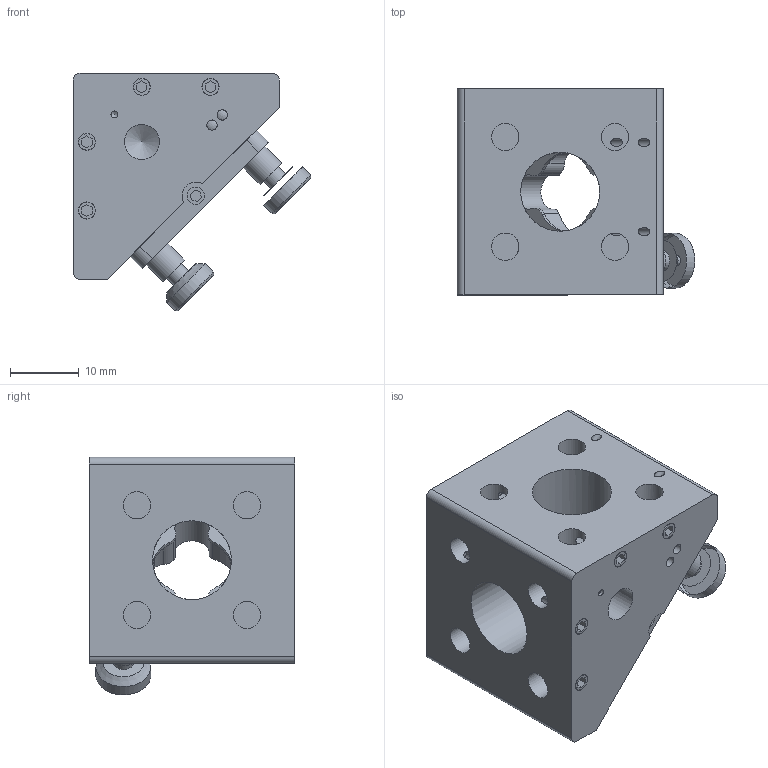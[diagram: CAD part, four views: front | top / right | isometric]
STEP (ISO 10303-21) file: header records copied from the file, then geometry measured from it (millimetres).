
FILE_DESCRIPTION(/* description */ (''),/* implementation_level */ '2;1');
FILE_NAME(/* name */ 'Y:\2_OpticalHard\08_Cage Systems\C16ｼﾘｰｽﾞ\C16-AMH-12.7UU\C16-AMH-12.7UU.stp',/* time_stamp */ '2019-02-19T13:11:27+09:00',/* author */ ('e.nonaka'),/* organization */ (''),/* preprocessor_version */ 'ST-DEVELOPER v17',/* originating_system */ 'Autodesk Inventor 2018',/* authorisation */ '');
FILE_SCHEMA (('AUTOMOTIVE_DESIGN { 1 0 10303 214 3 1 1 }'));
Length unit declared in the file: millimetre
Products named in the file (1): C16AMH12.7UU-M02-19001-TS01
Bounding box: 34.61 x 30 x 34.61 mm (x, y, z)
Volume: 13839.5 mm3; surface area: 9005.5 mm2
Topology: 5 solids, 5 shells, 319 faces, 859 edges, 595 vertices
Faces by surface type: plane 156, cylinder 113, cone 48, sphere 2
Full cylindrical faces by diameter (mm): 1 x7, 1.2 x7, 1.5 x7, 2.5 x19, 3 x2, 3.4 x2, 3.5 x7, 4 x8, 4.5 x2, 4.8 x2, 5.1 x1, 8 x2, 11.5 x2
Entity records: 11275 total; most frequent: CARTESIAN_POINT 2539, DIRECTION 1806, ORIENTED_EDGE 1690, EDGE_CURVE 845, AXIS2_PLACEMENT_3D 687, VERTEX_POINT 603, LINE 432, VECTOR 432
